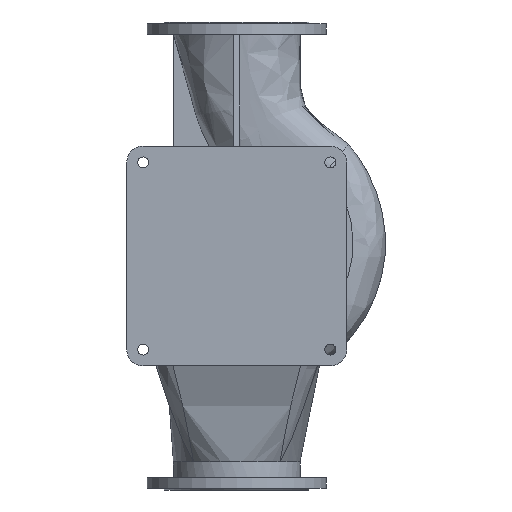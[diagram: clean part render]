
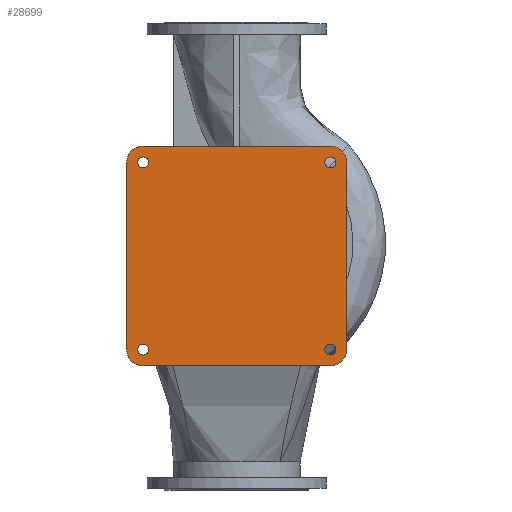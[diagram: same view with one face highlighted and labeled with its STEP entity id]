
A CAD part, front view. The second image highlights one B-rep face of the part: STEP entity #28699.
In plain terms, the highlighted planar face has unit normal (0, -1, 0).
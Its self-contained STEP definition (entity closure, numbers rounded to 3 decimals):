
#42 = AXIS2_PLACEMENT_3D ( 'NONE', #27923, #13751, #25305 ) ;
#1488 = DIRECTION ( 'NONE',  ( 0., 1., 0. ) ) ;
#1769 = DIRECTION ( 'NONE',  ( 0., -1., 0. ) ) ;
#1914 = CARTESIAN_POINT ( 'NONE',  ( -240., -290., 254. ) ) ;
#2020 = ORIENTED_EDGE ( 'NONE', *, *, #22133, .F. ) ;
#2045 = CARTESIAN_POINT ( 'NONE',  ( -240., -290., -240. ) ) ;
#2136 = DIRECTION ( 'NONE',  ( 0., 1., 0. ) ) ;
#2153 = ORIENTED_EDGE ( 'NONE', *, *, #2659, .F. ) ;
#2154 = FACE_BOUND ( 'NONE', #30891, .T. ) ;
#2334 = FACE_BOUND ( 'NONE', #21555, .T. ) ;
#2399 = AXIS2_PLACEMENT_3D ( 'NONE', #6542, #20374, #12342 ) ;
#2530 = VERTEX_POINT ( 'NONE', #8269 ) ;
#2640 = CARTESIAN_POINT ( 'NONE',  ( -240., -290., 282. ) ) ;
#2659 = EDGE_CURVE ( 'NONE', #27580, #3838, #9551, .T. ) ;
#3208 = ORIENTED_EDGE ( 'NONE', *, *, #25545, .T. ) ;
#3209 = AXIS2_PLACEMENT_3D ( 'NONE', #24813, #4273, #16251 ) ;
#3476 = AXIS2_PLACEMENT_3D ( 'NONE', #29909, #1488, #12915 ) ;
#3569 = CIRCLE ( 'NONE', #3476, 42. ) ;
#3644 = AXIS2_PLACEMENT_3D ( 'NONE', #14275, #26019, #12038 ) ;
#3788 = EDGE_CURVE ( 'NONE', #31581, #36998, #29240, .T. ) ;
#3838 = VERTEX_POINT ( 'NONE', #16333 ) ;
#4273 = DIRECTION ( 'NONE',  ( 0., 1., 0. ) ) ;
#4334 = CARTESIAN_POINT ( 'NONE',  ( 282., -290., 240. ) ) ;
#4547 = EDGE_LOOP ( 'NONE', ( #12514, #28225 ) ) ;
#4888 = ORIENTED_EDGE ( 'NONE', *, *, #3788, .F. ) ;
#4952 = EDGE_CURVE ( 'NONE', #36010, #19686, #13133, .T. ) ;
#4976 = CARTESIAN_POINT ( 'NONE',  ( 240., -290., -240. ) ) ;
#5234 = EDGE_CURVE ( 'NONE', #19686, #36010, #22694, .T. ) ;
#5387 = VERTEX_POINT ( 'NONE', #11200 ) ;
#6324 = EDGE_CURVE ( 'NONE', #21444, #36045, #23318, .T. ) ;
#6542 = CARTESIAN_POINT ( 'NONE',  ( 240., -290., -240. ) ) ;
#6801 = ORIENTED_EDGE ( 'NONE', *, *, #32705, .F. ) ;
#7087 = CIRCLE ( 'NONE', #9484, 14. ) ;
#7716 = DIRECTION ( 'NONE',  ( 0., 0., 1. ) ) ;
#7886 = DIRECTION ( 'NONE',  ( 0., 0., 1. ) ) ;
#8269 = CARTESIAN_POINT ( 'NONE',  ( 240., -290., 282. ) ) ;
#8517 = EDGE_LOOP ( 'NONE', ( #4888, #11892, #13159, #16560, #22528, #2153, #2020, #6801 ) ) ;
#8992 = DIRECTION ( 'NONE',  ( 0., 0., 1. ) ) ;
#9218 = VERTEX_POINT ( 'NONE', #29303 ) ;
#9484 = AXIS2_PLACEMENT_3D ( 'NONE', #16362, #2136, #10758 ) ;
#9551 = LINE ( 'NONE', #23372, #19009 ) ;
#9632 = AXIS2_PLACEMENT_3D ( 'NONE', #36691, #10904, #14225 ) ;
#9927 = VERTEX_POINT ( 'NONE', #29024 ) ;
#10758 = DIRECTION ( 'NONE',  ( 0., 0., 1. ) ) ;
#10904 = DIRECTION ( 'NONE',  ( 0., 1., 0. ) ) ;
#11010 = DIRECTION ( 'NONE',  ( 0., 1., 0. ) ) ;
#11200 = CARTESIAN_POINT ( 'NONE',  ( -240., -290., 226. ) ) ;
#11892 = ORIENTED_EDGE ( 'NONE', *, *, #25507, .F. ) ;
#12038 = DIRECTION ( 'NONE',  ( 0., 0., 1. ) ) ;
#12342 = DIRECTION ( 'NONE',  ( 0., 0., 1. ) ) ;
#12514 = ORIENTED_EDGE ( 'NONE', *, *, #33291, .T. ) ;
#12915 = DIRECTION ( 'NONE',  ( 0., 0., -1. ) ) ;
#13133 = CIRCLE ( 'NONE', #34008, 14. ) ;
#13159 = ORIENTED_EDGE ( 'NONE', *, *, #25112, .F. ) ;
#13390 = VECTOR ( 'NONE', #15489, 1000. ) ;
#13509 = CARTESIAN_POINT ( 'NONE',  ( 240., -290., -282. ) ) ;
#13543 = CARTESIAN_POINT ( 'NONE',  ( 240., -290., -226. ) ) ;
#13751 = DIRECTION ( 'NONE',  ( 0., 1., 0. ) ) ;
#13997 = VERTEX_POINT ( 'NONE', #1914 ) ;
#14225 = DIRECTION ( 'NONE',  ( 0., 0., 1. ) ) ;
#14275 = CARTESIAN_POINT ( 'NONE',  ( 240., -290., 240. ) ) ;
#14276 = CARTESIAN_POINT ( 'NONE',  ( -282., -290., -240. ) ) ;
#14691 = ORIENTED_EDGE ( 'NONE', *, *, #5234, .T. ) ;
#14745 = ORIENTED_EDGE ( 'NONE', *, *, #15037, .T. ) ;
#14965 = EDGE_CURVE ( 'NONE', #36045, #21444, #17362, .T. ) ;
#15037 = EDGE_CURVE ( 'NONE', #17567, #9927, #21563, .T. ) ;
#15489 = DIRECTION ( 'NONE',  ( 0., 0., -1. ) ) ;
#15585 = AXIS2_PLACEMENT_3D ( 'NONE', #32948, #36325, #29951 ) ;
#15705 = DIRECTION ( 'NONE',  ( -1., 0., 0. ) ) ;
#15867 = LINE ( 'NONE', #24632, #13390 ) ;
#16251 = DIRECTION ( 'NONE',  ( 0., 0., 1. ) ) ;
#16333 = CARTESIAN_POINT ( 'NONE',  ( -282., -290., 240. ) ) ;
#16362 = CARTESIAN_POINT ( 'NONE',  ( -240., -290., 240. ) ) ;
#16435 = CARTESIAN_POINT ( 'NONE',  ( -240., -290., 240. ) ) ;
#16560 = ORIENTED_EDGE ( 'NONE', *, *, #27395, .F. ) ;
#16885 = CIRCLE ( 'NONE', #26985, 42. ) ;
#17187 = VECTOR ( 'NONE', #15705, 1000. ) ;
#17362 = CIRCLE ( 'NONE', #42, 14. ) ;
#17567 = VERTEX_POINT ( 'NONE', #18791 ) ;
#18356 = LINE ( 'NONE', #26582, #34915 ) ;
#18791 = CARTESIAN_POINT ( 'NONE',  ( 240., -290., 254. ) ) ;
#19009 = VECTOR ( 'NONE', #8992, 1000. ) ;
#19112 = CARTESIAN_POINT ( 'NONE',  ( 240., -290., -240. ) ) ;
#19347 = CIRCLE ( 'NONE', #23475, 14. ) ;
#19686 = VERTEX_POINT ( 'NONE', #13543 ) ;
#20064 = VERTEX_POINT ( 'NONE', #4334 ) ;
#20374 = DIRECTION ( 'NONE',  ( 0., 1., 0. ) ) ;
#20437 = DIRECTION ( 'NONE',  ( 1., 0., 0. ) ) ;
#20800 = ORIENTED_EDGE ( 'NONE', *, *, #6324, .T. ) ;
#21136 = ORIENTED_EDGE ( 'NONE', *, *, #4952, .T. ) ;
#21444 = VERTEX_POINT ( 'NONE', #29367 ) ;
#21555 = EDGE_LOOP ( 'NONE', ( #20800, #23228 ) ) ;
#21563 = CIRCLE ( 'NONE', #3644, 14. ) ;
#22040 = DIRECTION ( 'NONE',  ( 0., 0., -1. ) ) ;
#22133 = EDGE_CURVE ( 'NONE', #9218, #27580, #34715, .T. ) ;
#22161 = FACE_BOUND ( 'NONE', #4547, .T. ) ;
#22362 = AXIS2_PLACEMENT_3D ( 'NONE', #4976, #1769, #36001 ) ;
#22528 = ORIENTED_EDGE ( 'NONE', *, *, #23135, .F. ) ;
#22694 = CIRCLE ( 'NONE', #2399, 14. ) ;
#22902 = CIRCLE ( 'NONE', #3209, 14. ) ;
#23083 = VERTEX_POINT ( 'NONE', #2640 ) ;
#23135 = EDGE_CURVE ( 'NONE', #3838, #23083, #16885, .T. ) ;
#23228 = ORIENTED_EDGE ( 'NONE', *, *, #14965, .T. ) ;
#23299 = CARTESIAN_POINT ( 'NONE',  ( 240., -290., -254. ) ) ;
#23318 = CIRCLE ( 'NONE', #9632, 14. ) ;
#23372 = CARTESIAN_POINT ( 'NONE',  ( -282., -290., -240. ) ) ;
#23475 = AXIS2_PLACEMENT_3D ( 'NONE', #31359, #33463, #7886 ) ;
#23914 = EDGE_CURVE ( 'NONE', #13997, #5387, #19347, .T. ) ;
#24632 = CARTESIAN_POINT ( 'NONE',  ( 282., -290., -240. ) ) ;
#24813 = CARTESIAN_POINT ( 'NONE',  ( 240., -290., 240. ) ) ;
#24992 = DIRECTION ( 'NONE',  ( 0., 0., -1. ) ) ;
#25112 = EDGE_CURVE ( 'NONE', #2530, #20064, #3569, .T. ) ;
#25305 = DIRECTION ( 'NONE',  ( 0., 0., 1. ) ) ;
#25507 = EDGE_CURVE ( 'NONE', #20064, #31581, #15867, .T. ) ;
#25545 = EDGE_CURVE ( 'NONE', #9927, #17567, #22902, .T. ) ;
#26019 = DIRECTION ( 'NONE',  ( 0., 1., 0. ) ) ;
#26582 = CARTESIAN_POINT ( 'NONE',  ( 240., -290., 282. ) ) ;
#26985 = AXIS2_PLACEMENT_3D ( 'NONE', #16435, #11010, #24992 ) ;
#27180 = PLANE ( 'NONE',  #22362 ) ;
#27250 = DIRECTION ( 'NONE',  ( 0., 1., 0. ) ) ;
#27395 = EDGE_CURVE ( 'NONE', #23083, #2530, #18356, .T. ) ;
#27580 = VERTEX_POINT ( 'NONE', #14276 ) ;
#27788 = CARTESIAN_POINT ( 'NONE',  ( 282., -290., -240. ) ) ;
#27923 = CARTESIAN_POINT ( 'NONE',  ( -240., -290., -240. ) ) ;
#28225 = ORIENTED_EDGE ( 'NONE', *, *, #23914, .T. ) ;
#28356 = CARTESIAN_POINT ( 'NONE',  ( -240., -290., -226. ) ) ;
#28699 = ADVANCED_FACE ( 'NONE', ( #22161, #2154, #30177, #35612, #2334 ), #27180, .T. ) ;
#28745 = AXIS2_PLACEMENT_3D ( 'NONE', #2045, #27250, #22040 ) ;
#29024 = CARTESIAN_POINT ( 'NONE',  ( 240., -290., 226. ) ) ;
#29240 = CIRCLE ( 'NONE', #15585, 42. ) ;
#29303 = CARTESIAN_POINT ( 'NONE',  ( -240., -290., -282. ) ) ;
#29367 = CARTESIAN_POINT ( 'NONE',  ( -240., -290., -254. ) ) ;
#29909 = CARTESIAN_POINT ( 'NONE',  ( 240., -290., 240. ) ) ;
#29951 = DIRECTION ( 'NONE',  ( 0., 0., -1. ) ) ;
#30071 = LINE ( 'NONE', #33255, #17187 ) ;
#30177 = FACE_OUTER_BOUND ( 'NONE', #8517, .T. ) ;
#30891 = EDGE_LOOP ( 'NONE', ( #21136, #14691 ) ) ;
#31359 = CARTESIAN_POINT ( 'NONE',  ( -240., -290., 240. ) ) ;
#31581 = VERTEX_POINT ( 'NONE', #27788 ) ;
#32705 = EDGE_CURVE ( 'NONE', #36998, #9218, #30071, .T. ) ;
#32948 = CARTESIAN_POINT ( 'NONE',  ( 240., -290., -240. ) ) ;
#33255 = CARTESIAN_POINT ( 'NONE',  ( -240., -290., -282. ) ) ;
#33291 = EDGE_CURVE ( 'NONE', #5387, #13997, #7087, .T. ) ;
#33299 = DIRECTION ( 'NONE',  ( 0., 1., 0. ) ) ;
#33463 = DIRECTION ( 'NONE',  ( 0., 1., 0. ) ) ;
#33997 = EDGE_LOOP ( 'NONE', ( #3208, #14745 ) ) ;
#34008 = AXIS2_PLACEMENT_3D ( 'NONE', #19112, #33299, #7716 ) ;
#34715 = CIRCLE ( 'NONE', #28745, 42. ) ;
#34915 = VECTOR ( 'NONE', #20437, 1000. ) ;
#35612 = FACE_BOUND ( 'NONE', #33997, .T. ) ;
#36001 = DIRECTION ( 'NONE',  ( 0., 0., -1. ) ) ;
#36010 = VERTEX_POINT ( 'NONE', #23299 ) ;
#36045 = VERTEX_POINT ( 'NONE', #28356 ) ;
#36325 = DIRECTION ( 'NONE',  ( 0., 1., 0. ) ) ;
#36691 = CARTESIAN_POINT ( 'NONE',  ( -240., -290., -240. ) ) ;
#36998 = VERTEX_POINT ( 'NONE', #13509 ) ;
